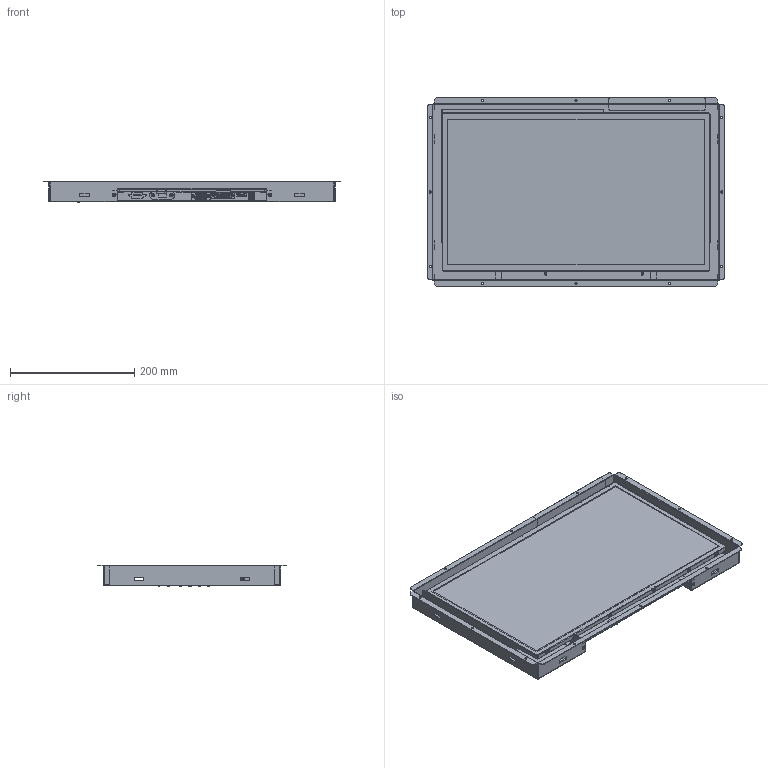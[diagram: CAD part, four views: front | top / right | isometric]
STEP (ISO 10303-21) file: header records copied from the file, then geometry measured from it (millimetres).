
FILE_DESCRIPTION (( 'STEP AP203' ), '1' );
FILE_NAME ('IDS-3118WN-30HDA1E.STEP', '2016-02-23T02:19:17', ( 'itd.mis' ), ( '' ), 'SwSTEP 2.0', 'SolidWorks 2013', '' );
FILE_SCHEMA (( 'CONFIG_CONTROL_DESIGN' ));
Length unit declared in the file: millimetre
Products named in the file (1): IDS-3118WN-30HDA1E
Bounding box: 478 x 303 x 34.6 mm (x, y, z)
Surface area: 831863.5 mm2 (no closed solid volume)
Topology: 0 solids, 120 shells, 1085 faces, 7349 edges, 6251 vertices
Faces by surface type: plane 476, cylinder 421, cone 92, bspline 65, torus 29, sphere 2
Entity records: 78063 total; most frequent: CARTESIAN_POINT 25235, DIRECTION 9832, ORIENTED_EDGE 9323, EDGE_CURVE 7336, VERTEX_POINT 6249, LINE 4744, VECTOR 4744, AXIS2_PLACEMENT_3D 2544
